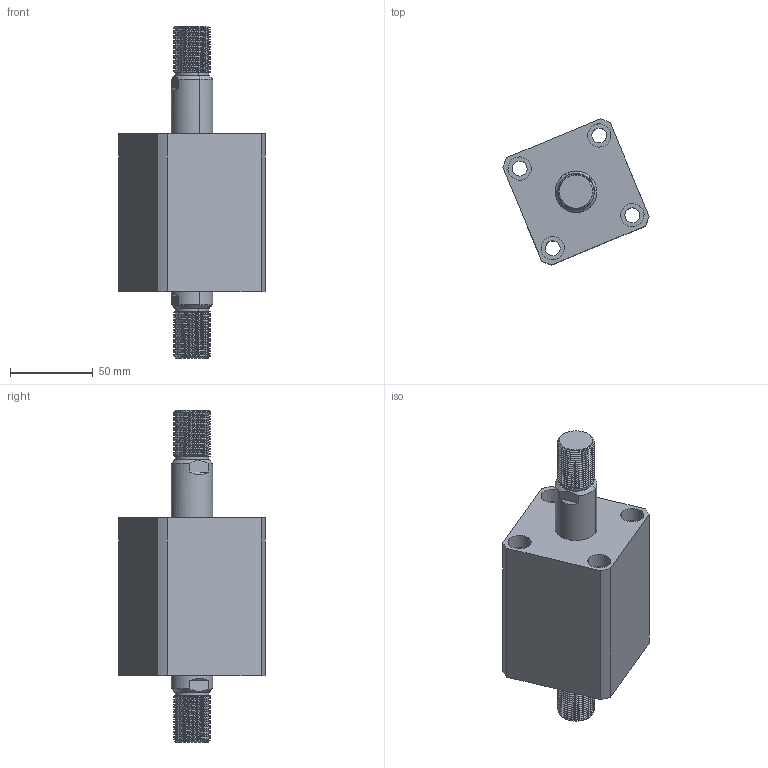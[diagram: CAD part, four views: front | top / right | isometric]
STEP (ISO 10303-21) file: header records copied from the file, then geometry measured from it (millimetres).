
FILE_DESCRIPTION (( 'STEP AP214' ), '1' );
FILE_NAME ('chtb-sw40x25w_asm.STEP', '2018-06-08T10:05:55', ( 'Windows' ), ( 'Microsoft' ), 'SwSTEP 2.0', 'SolidWorks 2015', '' );
FILE_SCHEMA (( 'AUTOMOTIVE_DESIGN' ));
Length unit declared in the file: millimetre
Products named in the file (4): chtb-sw40x25w_asm; CHTB-SW40X25NHSG; CHTB-SW40X25NBT; CHTB-SD40QG
Assembly tree (3 placements, depth 2):
  chtb-sw40x25w_asm
    CHTB-SD40QG
    CHTB-SW40X25NBT
    CHTB-SW40X25NHSG
Bounding box: 88.11 x 88.11 x 200 mm (x, y, z)
Volume: 450303.8 mm3; surface area: 89329.1 mm2
Topology: 3 solids, 3 shells, 254 faces, 680 edges, 452 vertices
Faces by surface type: cylinder 160, plane 46, bspline 18, cone 18, torus 12
Entity records: 17389 total; most frequent: CARTESIAN_POINT 11402, ORIENTED_EDGE 1348, DIRECTION 1094, EDGE_CURVE 674, VERTEX_POINT 452, AXIS2_PLACEMENT_3D 443, EDGE_LOOP 296, FACE_OUTER_BOUND 254
